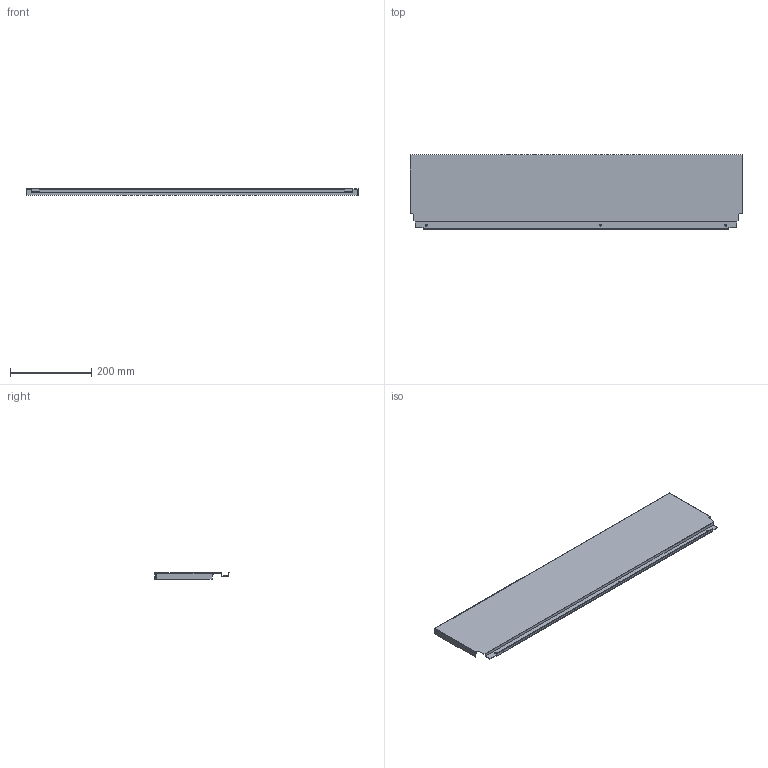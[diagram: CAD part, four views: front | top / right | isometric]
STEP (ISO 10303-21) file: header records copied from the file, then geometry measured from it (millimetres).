
FILE_DESCRIPTION (( 'STEP AP214' ), '1' );
FILE_NAME ('_DWD_XP Stahlrückwand_H182_KAB900_S16.step', '2010-07-08T12:57:38', ( 'grass' ), ( '' ), 'SwSTEP 2.0', 'SolidWorks 2010', '' );
FILE_SCHEMA (( 'AUTOMOTIVE_DESIGN' ));
Length unit declared in the file: millimetre
Products named in the file (1): _DWD_XP Stahlrückwand_H182_KAB900_S16
Bounding box: 817 x 182.49 x 16 mm (x, y, z)
Volume: 153275.2 mm3; surface area: 354444.7 mm2
Topology: 1 solids, 1 shells, 46 faces, 132 edges, 88 vertices
Faces by surface type: plane 40, cylinder 6
Entity records: 1534 total; most frequent: CARTESIAN_POINT 267, ORIENTED_EDGE 264, DIRECTION 238, EDGE_CURVE 132, VECTOR 120, LINE 120, VERTEX_POINT 88, AXIS2_PLACEMENT_3D 59
